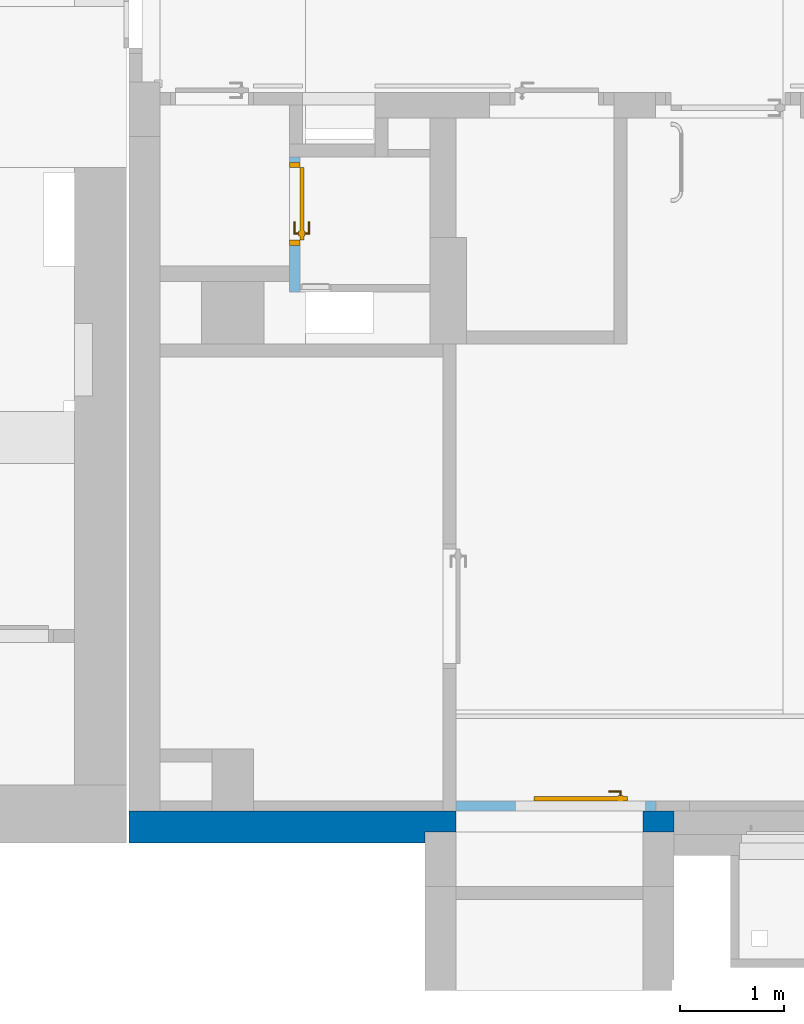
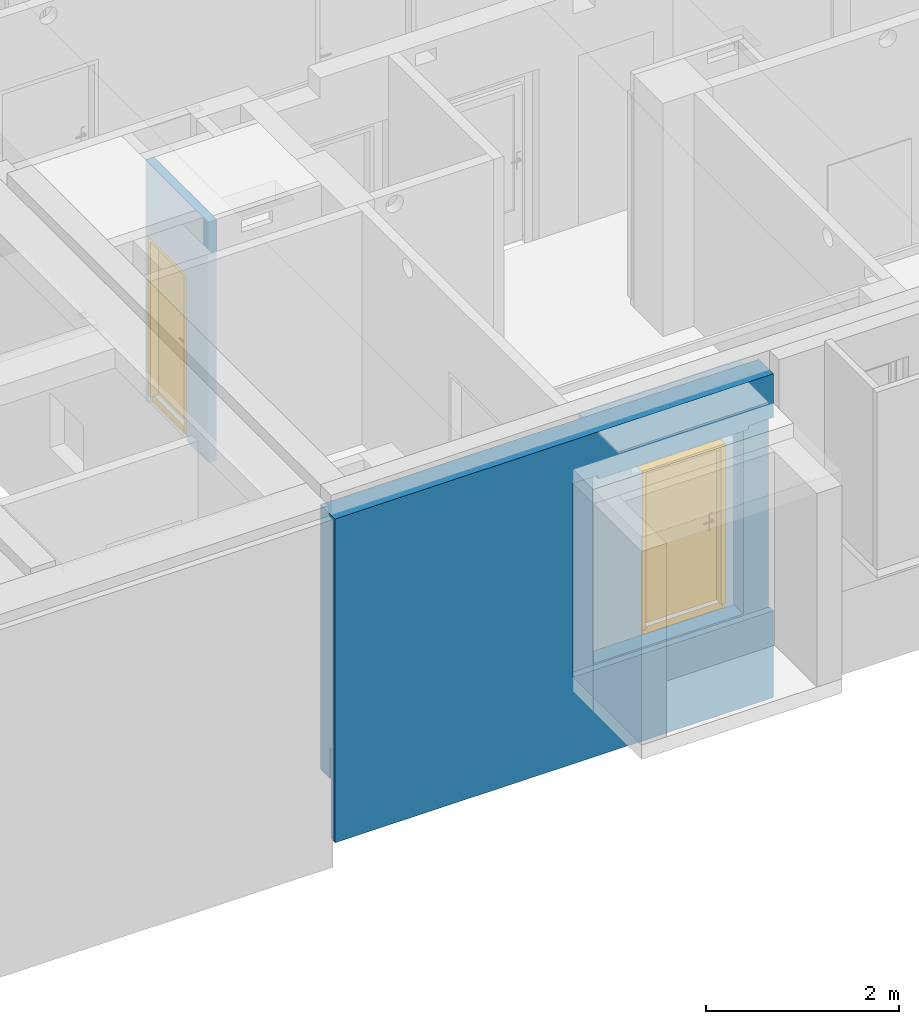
# One storey, part 48 of 84: 2 doors, 1 wall, 3 openings, plus 2 elements that do not belong to this part.
"""IFC4 building model written with IfcOpenShell, lengths in metres."""

import ifcopenshell
import ifcopenshell.guid

model = None  # the IFC model being written
_history = None  # IfcOwnerHistory: only IFC2X3 demands one
_inside = {}  # id of a spatial element -> (the spatial element, [elements in it])
_under = {}  # id of a project, library or spatial element -> (it, [spatial elements below it])
_declared = {}  # id of a project -> (the project, [libraries it declares])
_typed = {}  # id of a type object -> (the type object, [elements of that type])
_made_of = {}  # id of a material, layer set ... -> (it, [elements and type objects made of it])


def new_model(schema):
    """Start an empty IFC model of exactly this schema.

    Asked for "IFC4X3", IfcOpenShell would pick the latest addendum, in which some entities
    have other attributes; the version numbers below select the first issue.
    IFC2X3 requires an IfcOwnerHistory on every rooted entity: one is made here for all.
    """
    global model, _history
    if schema == "IFC4X3":
        model = ifcopenshell.file(schema_version=(4, 3, 0, 0))
    else:
        model = ifcopenshell.file(schema=schema)
    _inside.clear()
    _under.clear()
    _declared.clear()
    _typed.clear()
    _made_of.clear()
    _history = None
    if model.schema == "IFC2X3":
        org = make("IfcOrganization", Name="unknown")
        user = make(
            "IfcPersonAndOrganization",
            ThePerson=make("IfcPerson", FamilyName="unknown"),
            TheOrganization=org,
        )
        app = make(
            "IfcApplication",
            ApplicationDeveloper=org,
            Version="unknown",
            ApplicationFullName="unknown",
            ApplicationIdentifier="unknown",
        )
        _history = make(
            "IfcOwnerHistory",
            OwningUser=user,
            OwningApplication=app,
            ChangeAction="ADDED",
            CreationDate=0,
        )
    return model


def make(cls, **values):
    """One entity of the class cls with the attributes given. An attribute that is None is left unset."""
    return model.create_entity(
        cls, **{name: value for name, value in values.items() if value is not None}
    )


def entity(cls, *values):
    """Any entity or typed value of the class cls, its attributes in the order of the schema. None: left unset."""
    e = model.create_entity(cls)
    for i, value in enumerate(values):
        if value is not None:
            e[i] = value
    return e


def rooted(cls, **values):
    """An entity with a GlobalId (a new one), such as an element, a storey or a relation."""
    return make(cls, GlobalId=ifcopenshell.guid.new(), OwnerHistory=_history, **values)


def si_unit(unit_type, name, prefix=None):
    """IfcSIUnit, for example si_unit("LENGTHUNIT", "METRE", prefix="MILLI")."""
    return make("IfcSIUnit", UnitType=unit_type, Prefix=prefix, Name=name)


def converted_unit(unit_type, name, factor, base, dimensions=None, offset=None):
    """IfcConversionBasedUnit, such as the inch: factor (a typed value) times the base unit."""
    return make(
        "IfcConversionBasedUnit"
        if offset is None
        else "IfcConversionBasedUnitWithOffset",
        ConversionOffset=offset,
        Dimensions=None
        if dimensions is None
        else entity("IfcDimensionalExponents", *dimensions),
        UnitType=unit_type,
        Name=name,
        ConversionFactor=make(
            "IfcMeasureWithUnit", ValueComponent=factor, UnitComponent=base
        ),
    )


def derived_unit(unit_type, elements):
    """IfcDerivedUnit: a product of units, each with its exponent."""
    return make(
        "IfcDerivedUnit",
        Elements=[
            make("IfcDerivedUnitElement", Unit=unit, Exponent=power)
            for unit, power in elements
        ],
        UnitType=unit_type,
    )


def assignment(units):
    """IfcUnitAssignment: the units of a project."""
    return None if units is None else make("IfcUnitAssignment", Units=units)


def point(xyz):
    """IfcCartesianPoint."""
    return None if xyz is None else make("IfcCartesianPoint", Coordinates=xyz)


def direction(xyz):
    """IfcDirection."""
    return None if xyz is None else make("IfcDirection", DirectionRatios=xyz)


def frame(location, z_axis=None, x_axis=None):
    """IfcAxis2Placement3D, a coordinate frame: its origin and axes. An axis left out is left unset."""
    return make(
        "IfcAxis2Placement3D",
        Location=point(location),
        Axis=direction(z_axis),
        RefDirection=direction(x_axis),
    )


def frame_2d(location, x_axis=None):
    """IfcAxis2Placement2D, a coordinate frame in the plane: its origin and x axis."""
    return make(
        "IfcAxis2Placement2D", Location=point(location), RefDirection=direction(x_axis)
    )


def origin():
    """The frame at (0, 0, 0) with its axes left unset."""
    return frame((0.0, 0.0, 0.0))


def origin_with_axes():
    """The frame at (0, 0, 0) with the z axis (0, 0, 1) and the x axis (1, 0, 0) written out."""
    return frame((0.0, 0.0, 0.0), z_axis=(0.0, 0.0, 1.0), x_axis=(1.0, 0.0, 0.0))


def place(relative_to, where):
    """IfcLocalPlacement: puts the frame where relative to a parent placement (None: the world)."""
    return make(
        "IfcLocalPlacement", PlacementRelTo=relative_to, RelativePlacement=where
    )


def context(
    kind, dimensions, precision=None, world=None, true_north=None, identifier=None
):
    """IfcGeometricRepresentationContext, for example the 3D "Model" context."""
    return make(
        "IfcGeometricRepresentationContext",
        ContextIdentifier=identifier,
        ContextType=kind,
        CoordinateSpaceDimension=dimensions,
        Precision=precision,
        WorldCoordinateSystem=world,
        TrueNorth=true_north,
    )


def subcontext(parent, identifier, kind, view, scale=None):
    """IfcGeometricRepresentationSubContext, for example "Body" below "Model"."""
    return make(
        "IfcGeometricRepresentationSubContext",
        ContextIdentifier=identifier,
        ContextType=kind,
        ParentContext=parent,
        TargetScale=scale,
        TargetView=view,
    )


def project(units=None, contexts=None):
    """IfcProject with its units and contexts."""
    return rooted(
        "IfcProject",
        Name="project",
        RepresentationContexts=contexts,
        UnitsInContext=assignment(units),
    )


def spatial(cls, under=None, at=None, **own):
    """A site, building, storey or space (cls), placed at a placement, below another one or the project."""
    s = rooted(cls, ObjectPlacement=at, **own)
    if under is not None:
        _under.setdefault(under.id(), (under, []))[1].append(s)
    return s


def polyline(points):
    """IfcPolyline through the points."""
    return make("IfcPolyline", Points=[point(p) for p in points])


def profile(cls, at=None, kind="AREA", **sizes):
    """A parametric profile (cls). Its sizes go by their IFC names, for example OverallWidth=200.0."""
    return make(cls, ProfileType=kind, Position=at, **sizes)


def rectangle(**sizes):
    """IfcRectangleProfileDef."""
    return profile("IfcRectangleProfileDef", **sizes)


def outline(outer, holes=None, kind="AREA"):
    """IfcArbitraryClosedProfileDef: a profile drawn as a closed curve; with holes, ...WithVoids."""
    if holes is None:
        return make("IfcArbitraryClosedProfileDef", ProfileType=kind, OuterCurve=outer)
    return make(
        "IfcArbitraryProfileDefWithVoids",
        ProfileType=kind,
        OuterCurve=outer,
        InnerCurves=holes,
    )


def extrude(swept, where, along, depth):
    """IfcExtrudedAreaSolid: the profile swept, set in the frame where, extruded along a direction by depth."""
    return make(
        "IfcExtrudedAreaSolid",
        SweptArea=swept,
        Position=where,
        ExtrudedDirection=direction(along),
        Depth=depth,
    )


def faces_of(points, faces, orient=None, outer=None):
    """IfcFace entities. A face is a list of loops; a loop is a list of indices into points, from 0.

    orient and outer hold one flag for each loop. By default every Orientation is true, the
    first loop of a face is its IfcFaceOuterBound and the others are IfcFaceBound.
    """
    made = []
    for i, loops in enumerate(faces):
        bounds = []
        for j, loop in enumerate(loops):
            is_outer = j == 0 if outer is None else outer[i][j]
            bounds.append(
                make(
                    "IfcFaceOuterBound" if is_outer else "IfcFaceBound",
                    Bound=make("IfcPolyLoop", Polygon=[points[k] for k in loop]),
                    Orientation=True if orient is None else orient[i][j],
                )
            )
        made.append(make("IfcFace", Bounds=bounds))
    return made


def closed_shell(faces, orient=None, outer=None):
    """The faces of one IfcClosedShell. faceted_brep and surface_model build it on their shared points."""
    return ("IfcClosedShell", faces, orient, outer)


def open_shell(faces, orient=None, outer=None):
    """The faces of one IfcOpenShell. surface_model builds it on its shared points."""
    return ("IfcOpenShell", faces, orient, outer)


def faceted_brep(points, faces, orient=None, outer=None, voids=None):
    """IfcFacetedBrep: a solid bounded by flat faces; with voids (closed shells), ...WithVoids."""
    shared = [point(p) for p in points]
    hull = make("IfcClosedShell", CfsFaces=faces_of(shared, faces, orient, outer))
    if voids is None:
        return make("IfcFacetedBrep", Outer=hull)
    return make(
        "IfcFacetedBrepWithVoids",
        Outer=hull,
        Voids=[
            make(cls, CfsFaces=faces_of(shared, fs, o, b)) for cls, fs, o, b in voids
        ],
    )


def surface_model(cls, points, shells):
    """IfcFaceBasedSurfaceModel or IfcShellBasedSurfaceModel (cls): surfaces that need not close."""
    shared = [point(p) for p in points]
    made = [make(c, CfsFaces=faces_of(shared, fs, o, b)) for c, fs, o, b in shells]
    if cls == "IfcFaceBasedSurfaceModel":
        return make(cls, FbsmFaces=made)
    return make(cls, SbsmBoundary=made)


def shape(context_of_items, identifier, shape_type, items):
    """IfcShapeRepresentation: the items that make up one representation, for example the "Body"."""
    return make(
        "IfcShapeRepresentation",
        ContextOfItems=context_of_items,
        RepresentationIdentifier=identifier,
        RepresentationType=shape_type,
        Items=items,
    )


def source(mapping_origin, context_of_items, identifier, shape_type, items):
    """IfcRepresentationMap: a shape defined once, which mapped items show again and again."""
    return make(
        "IfcRepresentationMap",
        MappingOrigin=mapping_origin,
        MappedRepresentation=shape(context_of_items, identifier, shape_type, items),
    )


def transform(
    local_origin,
    x_axis=None,
    y_axis=None,
    z_axis=None,
    scale=None,
    scale2=None,
    scale3=None,
    uniform=True,
):
    """IfcCartesianTransformationOperator3D, or its non-uniform kind. x_axis, y_axis, z_axis: its Axis1, 2, 3."""
    if uniform:
        return make(
            "IfcCartesianTransformationOperator3D",
            Axis1=direction(x_axis),
            Axis2=direction(y_axis),
            LocalOrigin=point(local_origin),
            Scale=scale,
            Axis3=direction(z_axis),
        )
    return make(
        "IfcCartesianTransformationOperator3DnonUniform",
        Axis1=direction(x_axis),
        Axis2=direction(y_axis),
        LocalOrigin=point(local_origin),
        Scale=scale,
        Axis3=direction(z_axis),
        Scale2=scale2,
        Scale3=scale3,
    )


def mapped(mapping_source, mapping_target):
    """IfcMappedItem: shows the shape of a source again, moved by a transform."""
    return make(
        "IfcMappedItem", MappingSource=mapping_source, MappingTarget=mapping_target
    )


def material(Name=None, Category=None):
    """IfcMaterial."""
    return make("IfcMaterial", Name=Name, Category=Category)


def layer(
    of_material, thickness, ventilated=None, Name=None, Category=None, Priority=None
):
    """IfcMaterialLayer: one layer of a wall or slab, of a material (None: an air gap)."""
    return make(
        "IfcMaterialLayer",
        Material=of_material,
        LayerThickness=thickness,
        IsVentilated=ventilated,
        Name=Name,
        Category=Category,
        Priority=Priority,
    )


def layer_set(layers, Name=None):
    """IfcMaterialLayerSet."""
    return make("IfcMaterialLayerSet", MaterialLayers=layers, LayerSetName=Name)


def layer_usage(for_layer_set, set_direction, sense, offset, extent=None):
    """IfcMaterialLayerSetUsage: how a layer set lies in its element."""
    return make(
        "IfcMaterialLayerSetUsage",
        ForLayerSet=for_layer_set,
        LayerSetDirection=set_direction,
        DirectionSense=sense,
        OffsetFromReferenceLine=offset,
        ReferenceExtent=extent,
    )


def made_of(thing, what):
    """Note that an element or type object is made of a material, layer set ...; save() writes the relation."""
    if what is not None:
        _made_of.setdefault(what.id(), (what, []))[1].append(thing)
    return thing


def type_object(cls, material=None, **own):
    """A type object (cls), such as IfcWallType, which elements share."""
    return made_of(rooted(cls, **own), material)


def element(
    cls,
    number,
    at=None,
    inside=None,
    cuts=None,
    type_object=None,
    material=None,
    context=None,
    identifier="Body",
    shape_type=None,
    held_by="IfcProductDefinitionShape",
    body=None,
    shapes=None,
    **own,
):
    """One element of the class cls, such as IfcWall. Its Tag is "e" and its number.

    at: its placement. inside: the storey or other place that contains it. cuts: it is an
    opening in that element (IfcRelVoidsElement). A single representation is given by context,
    identifier, shape_type and body (its items); several are given by shapes. held_by: the class
    of the entity that holds the representations. save() writes the other relations.
    """
    e = rooted(cls, Tag="e%d" % number, ObjectPlacement=at, **own)
    if body is not None:
        shapes = [shape(context, identifier, shape_type, body)]
    if shapes is not None:
        e.Representation = make(held_by, Representations=shapes)
    if inside is not None:
        _inside.setdefault(inside.id(), (inside, []))[1].append(e)
    if cuts is not None:
        rooted(
            "IfcRelVoidsElement", RelatingBuildingElement=cuts, RelatedOpeningElement=e
        )
    if type_object is not None:
        _typed.setdefault(type_object.id(), (type_object, []))[1].append(e)
    return made_of(e, material)


def fill(opening, filler):
    """IfcRelFillsElement: the door or window that sits in an opening."""
    return rooted(
        "IfcRelFillsElement",
        RelatingOpeningElement=opening,
        RelatedBuildingElement=filler,
    )


def aggregate(whole, parts):
    """IfcRelAggregates: a whole, such as a stair, and the parts it consists of."""
    return rooted("IfcRelAggregates", RelatingObject=whole, RelatedObjects=parts)


def save(model, path):
    """Write the relations noted so far, then the file.

    IfcRelAggregates (storeys below a building ...), IfcRelContainedInSpatialStructure (elements
    in a storey), IfcRelDefinesByType, IfcRelAssociatesMaterial and IfcRelDeclares: one each for
    every whole, place, type object, material and project.
    """
    for whole, parts in _under.values():
        aggregate(whole, parts)
    for where, things in _inside.values():
        rooted(
            "IfcRelContainedInSpatialStructure",
            RelatedElements=things,
            RelatingStructure=where,
        )
    for kind, things in _typed.values():
        rooted("IfcRelDefinesByType", RelatedObjects=things, RelatingType=kind)
    for what, things in _made_of.values():
        rooted("IfcRelAssociatesMaterial", RelatedObjects=things, RelatingMaterial=what)
    for by, libraries in _declared.values():
        rooted("IfcRelDeclares", RelatingContext=by, RelatedDefinitions=libraries)
    model.write(path)


model = new_model("IFC4")

# Units and contexts
model_context = context("Model", 3, precision=1e-05, world=origin())
body_context = subcontext(model_context, "Body", "Model", "MODEL_VIEW")
ifc_project = project(units=[si_unit("LENGTHUNIT", "METRE"), si_unit("AREAUNIT", "SQUARE_METRE"), si_unit("VOLUMEUNIT", "CUBIC_METRE"), si_unit("MASSUNIT", "GRAM", prefix="KILO"), converted_unit("PLANEANGLEUNIT", "DEGREE", entity("IfcPlaneAngleMeasure", 0.0174532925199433), si_unit("PLANEANGLEUNIT", "RADIAN"), dimensions=[0, 0, 0, 0, 0, 0, 0]), derived_unit("THERMALTRANSMITTANCEUNIT", [(si_unit("POWERUNIT", "WATT"), 1), (si_unit("THERMODYNAMICTEMPERATUREUNIT", "KELVIN"), -1), (si_unit("LENGTHUNIT", "METRE"), -2)]), derived_unit("VOLUMETRICFLOWRATEUNIT", [(si_unit("LENGTHUNIT", "METRE"), 3), (converted_unit("TIMEUNIT", "hour", entity("IfcTimeMeasure", 3600.0), si_unit("TIMEUNIT", "SECOND"), dimensions=[0, 0, 1, 0, 0, 0, 0]), -1), (si_unit("LENGTHUNIT", "METRE"), -1)])], contexts=[model_context])

# Site, building, storey
site_placement = place(None, origin())
site = spatial("IfcSite", under=ifc_project, at=site_placement, Name="3. ASŘ", CompositionType="ELEMENT")
building_placement = place(site_placement, origin())
building = spatial("IfcBuilding", under=site, at=building_placement, Name="Pavilon C", CompositionType="ELEMENT")
storey_placement = place(building_placement, frame((0.0, 0.0, -3.3)))
storey = spatial("IfcBuildingStorey", under=building, at=storey_placement, Name="Půdorys 1.PP", CompositionType="ELEMENT", Elevation=-3.3)

# Wall, opening
ifc_material_1 = material(Name="ZELEZOBETONOVÁ KCE")
wall_1_placement = place(storey_placement, frame((-0.999999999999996, 0.295000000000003, -1.15)))
wall_1 = element("IfcWall", 1, at=wall_1_placement, inside=storey, material=ifc_material_1, Name="ZELEZOBETONOVÁ KCE", context=body_context, shape_type="Brep", body=[
    faceted_brep([(5.25, 0.305, 4.1), (5.25, 0.0, 4.1), (0.0, 1.47792889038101e-15, 4.1), (0.0, 0.305000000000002, 4.1), (0.0, 0.305000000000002, 0.750000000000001), (5.25, 0.305, 0.750000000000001), (5.25, 0.105, 0.750000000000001), (5.25, 0.105, 3.55), (5.25, 0.0, 3.55), (0.0, 0.105000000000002, 0.750000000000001), (0.0, 1.47792889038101e-15, 0.0), (0.0, 0.0800000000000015, 0.0), (0.0, 0.0800000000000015, 1.15), (0.0, 0.105000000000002, 1.15), (2.85, 0.105000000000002, 1.15), (2.85, 0.105000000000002, 3.55), (3.15, 0.105000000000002, 3.55), (3.15, 0.105000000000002, 1.15), (4.95, 0.105000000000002, 1.15), (4.95, 0.105000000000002, 3.55), (2.85, 6.82121026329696e-16, 1.1), (2.85, 0.0800000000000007, 1.1), (3.15, 0.0800000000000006, 1.1), (3.15, 6.25277607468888e-16, 1.1), (5.25, 0.0, 1.1), (4.95, 1.13686837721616e-16, 1.1), (4.95, 0.0800000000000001, 1.1), (5.25, 0.08, 1.1), (4.95, 1.13686837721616e-16, 3.55), (5.25, 0.0, 0.0), (3.15, 6.25277607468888e-16, 3.55), (2.85, 6.82121026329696e-16, 3.55), (2.85, 0.0800000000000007, 1.15), (5.25, 0.08, 0.0), (4.95, 0.0800000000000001, 1.15), (3.15, 0.0800000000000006, 1.15)], [[[0, 1, 2, 3]], [[4, 5, 0, 3]], [[5, 6, 7, 8, 1, 0]], [[6, 5, 4, 9]], [[9, 4, 3, 2, 10, 11, 12, 13]], [[7, 6, 9, 13, 14, 15, 16, 17, 18, 19]], [[20, 21, 22, 23]], [[24, 25, 26, 27]], [[28, 25, 24, 29, 10, 2, 1, 8], [20, 23, 30, 31]], [[22, 21, 32, 12, 11, 33, 27, 26, 34, 35]], [[27, 33, 29, 24]], [[29, 33, 11, 10]], [[17, 16, 30, 23, 22, 35]], [[16, 15, 31, 30]], [[32, 21, 20, 31, 15, 14]], [[19, 28, 8, 7]], [[34, 26, 25, 28, 19, 18]], [[14, 13, 12, 32]], [[35, 34, 18, 17]]], orient=[[False], [False], [False], [False], [False], [False], [False], [False], [False, False], [False], [False], [False], [False], [False], [False], [False], [False], [False], [False]]),
])
opening_1_placement = place(wall_1_placement, frame((3.15, 0.105000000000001, 1.1), z_axis=(0.0, 1.0, 0.0), x_axis=(0.0, 0.0, 1.0)))
element("IfcOpeningElement", 2, at=opening_1_placement, cuts=wall_1, Name="Dveřní otvor", ObjectType="Opening", context=body_context, shape_type="SweptSolid", body=[
    extrude(outline(polyline([(0.0, 1.8), (2.4, 1.8), (2.4, 0.0), (0.0, 0.0), (0.0, 1.8)])), origin_with_axes(), (0.0, 0.0, 1.0), 0.2),
    extrude(outline(polyline([(0.0, 1.8), (2.4, 1.8), (2.4, 0.0), (0.0, 0.0), (0.0, 1.8)])), frame((0.0, 7.105427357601e-18, -0.025), z_axis=(0.0, 0.0, 1.0), x_axis=(1.0, 0.0, 0.0)), (0.0, 0.0, 1.0), 0.025),
    extrude(outline(polyline([(0.0, 1.8), (2.4, 1.8), (2.4, 0.0), (0.0, 0.0), (0.0, 1.8)])), frame((0.0, 2.98427949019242e-17, -0.105), z_axis=(0.0, 0.0, 1.0), x_axis=(1.0, 0.0, 0.0)), (0.0, 0.0, 1.0), 0.08),
])

# Wall, opening, door
ifc_material_2 = material(Name="YTONG 100")
wall_2_placement = place(storey_placement, frame((2.15, 0.600000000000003, -0.1)))
wall_2 = element("IfcWall", 3, at=wall_2_placement, inside=storey, material=ifc_material_2, Name="YTONG 100", context=body_context, shape_type="Brep", body=[
    faceted_brep([(0.575, 3.41060513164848e-16, 2.369), (1.825, 0.0, 2.369), (1.825, 0.1, 2.369), (0.575, 0.1, 2.369), (0.575, 0.1, 2.12), (1.825, 0.1, 2.12), (1.825, 0.0, 2.12), (0.575, 3.41060513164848e-16, 2.12), (0.0, 0.1, 0.0), (1.925, 0.1, 0.0), (1.925, 0.1, 3.05), (0.0, 0.1, 3.05), (1.925, 0.0, 0.0), (1.925, 0.0, 3.05), (0.0, 4.54747350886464e-16, 0.0), (0.0, 4.54747350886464e-16, 3.05)], [[[0, 1, 2, 3]], [[4, 5, 6, 7]], [[3, 4, 7, 0]], [[1, 6, 5, 2]], [[8, 9, 10, 11], [4, 3, 2, 5]], [[9, 12, 13, 10]], [[12, 14, 15, 13], [6, 1, 0, 7]], [[14, 8, 11, 15]], [[15, 11, 10, 13]], [[8, 14, 12, 9]]], orient=[[False], [False], [False], [False], [False, False], [False], [False, False], [False], [False], [False]]),
])
opening_2_placement = place(wall_2_placement, frame((1.7, 0.1, 0.0), z_axis=(0.0, -1.0, 0.0), x_axis=(0.0, 0.0, 1.0)))
opening_2 = element("IfcOpeningElement", 4, at=opening_2_placement, cuts=wall_2, Name="Dveřní otvor", ObjectType="Opening", context=body_context, shape_type="SweptSolid", body=[
    extrude(outline(polyline([(0.0, 1.0), (2.12, 1.0), (2.12, 0.0), (0.0, 0.0), (0.0, 1.0)])), origin_with_axes(), (0.0, 0.0, 1.0), 0.1),
])
door_type_1 = type_object("IfcDoorType", Name="I.D030", OperationType="NOTDEFINED", ParameterTakesPrecedence=False, PredefinedType="DOOR")
shared_shape_1 = source(origin_with_axes(), body_context, "Body", "SurfaceModel", [
    surface_model("IfcShellBasedSurfaceModel", [(0.0, 0.15, 0.0), (1.0, 0.15, 0.0), (1.0, 0.15, 0.1), (0.0, 0.15, 0.1)], [open_shell([[[0, 1, 2, 3]]], orient=[[False]])]),
    surface_model("IfcShellBasedSurfaceModel", [(0.0, 0.2, 2.12), (0.0, 0.2, 0.101), (0.05, 0.2, 0.101), (0.05, 0.2, 2.12), (0.0, 0.0999999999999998, 0.101), (0.0, 0.1, 2.12), (0.05, 0.1, 2.12), (0.05, 0.0999999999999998, 0.101)], [closed_shell([[[0, 1, 2, 3]], [[4, 5, 6, 7]], [[1, 0, 5, 4]], [[2, 1, 4, 7]], [[3, 2, 7, 6]], [[0, 3, 6, 5]]], orient=[[False], [False], [False], [False], [False], [False]])]),
    surface_model("IfcShellBasedSurfaceModel", [(0.95, 0.2, 2.12), (0.95, 0.2, 0.101), (1.0, 0.2, 0.101), (1.0, 0.2, 2.12), (0.95, 0.0999999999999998, 0.101), (0.95, 0.1, 2.12), (1.0, 0.1, 2.12), (1.0, 0.0999999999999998, 0.101)], [closed_shell([[[0, 1, 2, 3]], [[4, 5, 6, 7]], [[1, 0, 5, 4]], [[2, 1, 4, 7]], [[3, 2, 7, 6]], [[0, 3, 6, 5]]], orient=[[False], [False], [False], [False], [False], [False]])]),
    surface_model("IfcShellBasedSurfaceModel", [(0.05, 0.2, 2.12), (0.05, 0.2, 2.07), (0.95, 0.2, 2.07), (0.95, 0.2, 2.12), (0.05, 0.1, 2.07), (0.05, 0.1, 2.12), (0.95, 0.1, 2.12), (0.95, 0.1, 2.07)], [closed_shell([[[0, 1, 2, 3]], [[4, 5, 6, 7]], [[1, 0, 5, 4]], [[2, 1, 4, 7]], [[3, 2, 7, 6]], [[0, 3, 6, 5]]], orient=[[False], [False], [False], [False], [False], [False]])]),
    surface_model("IfcShellBasedSurfaceModel", [(0.05, 0.1, 2.07), (0.05, 0.0999999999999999, 0.101), (0.95, 0.0999999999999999, 0.101), (0.95, 0.1, 2.07), (0.05, 0.0599999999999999, 0.101), (0.05, 0.0600000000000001, 2.07), (0.95, 0.0600000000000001, 2.07), (0.95, 0.0599999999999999, 0.101)], [closed_shell([[[0, 1, 2, 3]], [[4, 5, 6, 7]], [[1, 0, 5, 4]], [[2, 1, 4, 7]], [[3, 2, 7, 6]], [[0, 3, 6, 5]]], orient=[[False], [False], [False], [False], [False], [False]])]),
    surface_model("IfcShellBasedSurfaceModel", [(0.86, 0.06, 1.226), (0.86, 0.06, 1.011), (0.91, 0.06, 1.011), (0.91, 0.06, 1.226), (0.86, 0.05, 1.011), (0.86, 0.05, 1.226), (0.91, 0.05, 1.226), (0.91, 0.05, 1.011)], [closed_shell([[[0, 1, 2, 3]], [[4, 5, 6, 7]], [[1, 0, 5, 4]], [[2, 1, 4, 7]], [[3, 2, 7, 6]], [[0, 3, 6, 5]]], orient=[[False], [False], [False], [False], [False], [False]])]),
    surface_model("IfcShellBasedSurfaceModel", [(0.885, 0.05, 1.161), (0.88, 0.05, 1.15966025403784), (0.876339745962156, 0.05, 1.156), (0.875, 0.05, 1.151), (0.876339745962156, 0.05, 1.146), (0.88, 0.05, 1.14233974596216), (0.885, 0.05, 1.141), (0.89, 0.05, 1.14233974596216), (0.893660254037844, 0.05, 1.146), (0.895, 0.05, 1.151), (0.893660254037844, 0.05, 1.156), (0.89, 0.05, 1.15966025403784), (0.89, 0.005, 1.15966025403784), (0.885, 0.01, 1.161), (0.893660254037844, 0.00133974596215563, 1.156), (0.895, 0.0, 1.151), (0.893660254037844, 0.00133974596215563, 1.146), (0.89, 0.005, 1.14233974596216), (0.885, 0.01, 1.141), (0.88, 0.015, 1.14233974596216), (0.876339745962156, 0.0186602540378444, 1.146), (0.875, 0.02, 1.151), (0.876339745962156, 0.0186602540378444, 1.156), (0.88, 0.015, 1.15966025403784), (0.77, 0.005, 1.15966025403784), (0.77, 0.01, 1.161), (0.77, 0.0013397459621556, 1.156), (0.77, 0.0, 1.151), (0.77, 0.0013397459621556, 1.146), (0.77, 0.005, 1.14233974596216), (0.77, 0.01, 1.141), (0.77, 0.015, 1.14233974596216), (0.77, 0.0186602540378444, 1.146), (0.77, 0.02, 1.151), (0.77, 0.0186602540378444, 1.156), (0.77, 0.015, 1.15966025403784)], [open_shell([[[0, 1, 2, 3, 4, 5, 6, 7, 8, 9, 10, 11]], [[0, 11, 12, 13]], [[11, 10, 14, 12]], [[10, 9, 15, 14]], [[9, 8, 16, 15]], [[8, 7, 17, 16]], [[7, 6, 18, 17]], [[6, 5, 19, 18]], [[5, 4, 20, 19]], [[4, 3, 21, 20]], [[3, 2, 22, 21]], [[2, 1, 23, 22]], [[1, 0, 13, 23]], [[13, 12, 24, 25]], [[12, 14, 26, 24]], [[14, 15, 27, 26]], [[15, 16, 28, 27]], [[16, 17, 29, 28]], [[17, 18, 30, 29]], [[18, 19, 31, 30]], [[19, 20, 32, 31]], [[20, 21, 33, 32]], [[21, 22, 34, 33]], [[22, 23, 35, 34]], [[23, 13, 25, 35]]], orient=[[False], [False], [False], [False], [False], [False], [False], [False], [False], [False], [False], [False], [False], [False], [False], [False], [False], [False], [False], [False], [False], [False], [False], [False], [False]])]),
    surface_model("IfcShellBasedSurfaceModel", [(0.86, 0.1, 1.226), (0.91, 0.1, 1.226), (0.91, 0.1, 1.011), (0.86, 0.1, 1.011), (0.86, 0.11, 1.011), (0.91, 0.11, 1.011), (0.91, 0.11, 1.226), (0.86, 0.11, 1.226)], [closed_shell([[[0, 1, 2, 3]], [[4, 5, 6, 7]], [[3, 4, 7, 0]], [[2, 5, 4, 3]], [[1, 6, 5, 2]], [[0, 7, 6, 1]]], orient=[[False], [False], [False], [False], [False], [False]])]),
    surface_model("IfcShellBasedSurfaceModel", [(0.885, 0.11, 1.161), (0.89, 0.11, 1.15966025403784), (0.893660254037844, 0.11, 1.156), (0.895, 0.11, 1.151), (0.893660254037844, 0.11, 1.146), (0.89, 0.11, 1.14233974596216), (0.885, 0.11, 1.141), (0.88, 0.11, 1.14233974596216), (0.876339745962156, 0.11, 1.146), (0.875, 0.11, 1.151), (0.876339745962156, 0.11, 1.156), (0.88, 0.11, 1.15966025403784), (0.885, 0.15, 1.161), (0.89, 0.155, 1.15966025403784), (0.893660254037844, 0.158660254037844, 1.156), (0.895, 0.16, 1.151), (0.893660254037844, 0.158660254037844, 1.146), (0.89, 0.155, 1.14233974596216), (0.885, 0.15, 1.141), (0.88, 0.145, 1.14233974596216), (0.876339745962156, 0.141339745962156, 1.146), (0.875, 0.14, 1.151), (0.876339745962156, 0.141339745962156, 1.156), (0.88, 0.145, 1.15966025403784), (0.77, 0.15, 1.161), (0.77, 0.155, 1.15966025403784), (0.77, 0.158660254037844, 1.156), (0.77, 0.16, 1.151), (0.77, 0.158660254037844, 1.146), (0.77, 0.155, 1.14233974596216), (0.77, 0.15, 1.141), (0.77, 0.145, 1.14233974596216), (0.77, 0.141339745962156, 1.146), (0.77, 0.14, 1.151), (0.77, 0.141339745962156, 1.156), (0.77, 0.145, 1.15966025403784)], [open_shell([[[0, 1, 2, 3, 4, 5, 6, 7, 8, 9, 10, 11]], [[0, 12, 13, 1]], [[1, 13, 14, 2]], [[2, 14, 15, 3]], [[3, 15, 16, 4]], [[4, 16, 17, 5]], [[5, 17, 18, 6]], [[6, 18, 19, 7]], [[7, 19, 20, 8]], [[8, 20, 21, 9]], [[9, 21, 22, 10]], [[10, 22, 23, 11]], [[11, 23, 12, 0]], [[12, 24, 25, 13]], [[13, 25, 26, 14]], [[14, 26, 27, 15]], [[15, 27, 28, 16]], [[16, 28, 29, 17]], [[17, 29, 30, 18]], [[18, 30, 31, 19]], [[19, 31, 32, 20]], [[20, 32, 33, 21]], [[21, 33, 34, 22]], [[22, 34, 35, 23]], [[23, 35, 24, 12]]], orient=[[False], [False], [False], [False], [False], [False], [False], [False], [False], [False], [False], [False], [False], [False], [False], [False], [False], [False], [False], [False], [False], [False], [False], [False], [False]])]),
])
door_1_placement = place(opening_2_placement, frame((0.0, 1.0, -0.1), z_axis=(1.0, 0.0, 0.0), x_axis=(0.0, -1.0, 1.22464679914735e-16)))
door_1 = element("IfcDoor", 5, at=door_1_placement, inside=storey, type_object=door_type_1, Name="I.D030", OverallHeight=2.12, OverallWidth=1.0, context=body_context, shape_type="MappedRepresentation", body=[
    mapped(shared_shape_1, transform((0.0, 0.0, 0.0), x_axis=(1.0, 0.0, 0.0), y_axis=(0.0, -1.0, 0.0), z_axis=(0.0, 0.0, 1.0), scale=1.0)),
])
fill(opening_2, door_1)

ifc_material_3 = material(Name="SDK - 1 KCE + DVOJITÉ OPLÁŠTĚNÍ")
ifc_layer = layer(ifc_material_3, 0.1)
ifc_layer_set = layer_set([ifc_layer])
ifc_layer_usage = layer_usage(ifc_layer_set, "AXIS2", "POSITIVE", 0.0)
wall_3_placement = place(storey_placement, frame((0.545000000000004, 6.9, -0.1), z_axis=(0.0, 0.0, 1.0), x_axis=(0.0, -1.0, 0.0)))
wall_3 = element("IfcWall", 6, at=wall_3_placement, inside=storey, material=ifc_layer_usage, Name="SDK - 1 KCE + DVOJITÉ OPLÁŠTĚNÍ", context=body_context, shape_type="SweptSolid", body=[
    extrude(rectangle(XDim=1.3, YDim=0.1, at=frame_2d((0.65, 0.05), x_axis=(1.0, 0.0))), origin_with_axes(), (0.0, 0.0, 1.0), 3.05),
])
opening_3_placement = place(wall_3_placement, frame((0.05, 0.0, 0.0), z_axis=(0.0, 1.0, 0.0), x_axis=(0.0, 0.0, 1.0)))
opening_3 = element("IfcOpeningElement", 7, at=opening_3_placement, cuts=wall_3, Name="Dveřní otvor", ObjectType="Opening", context=body_context, shape_type="SweptSolid", body=[
    extrude(outline(polyline([(0.0, 0.8), (2.12, 0.8), (2.12, 0.0), (0.0, 0.0), (0.0, 0.8)])), origin_with_axes(), (0.0, 0.0, 1.0), 0.1),
])
door_type_2 = type_object("IfcDoorType", Name="I.D033", OperationType="NOTDEFINED", ParameterTakesPrecedence=False, PredefinedType="DOOR")
shared_shape_2 = source(origin_with_axes(), body_context, "Body", "SurfaceModel", [
    surface_model("IfcShellBasedSurfaceModel", [(0.0, 0.05, 0.0), (0.8, 0.05, 0.0), (0.8, 0.05, 0.1), (0.0, 0.05, 0.1)], [open_shell([[[0, 1, 2, 3]]], orient=[[False]])]),
    surface_model("IfcShellBasedSurfaceModel", [(0.0, 0.1, 2.12), (0.0, 0.1, 0.101), (0.05, 0.1, 0.101), (0.05, 0.1, 2.12), (0.0, 0.0, 0.101), (0.0, 2.41584530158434e-16, 2.12), (0.05, 2.41584530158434e-16, 2.12), (0.05, 0.0, 0.101)], [closed_shell([[[0, 1, 2, 3]], [[4, 5, 6, 7]], [[1, 0, 5, 4]], [[2, 1, 4, 7]], [[3, 2, 7, 6]], [[0, 3, 6, 5]]], orient=[[False], [False], [False], [False], [False], [False]])]),
    surface_model("IfcShellBasedSurfaceModel", [(0.75, 0.1, 2.12), (0.75, 0.1, 0.101), (0.8, 0.1, 0.101), (0.8, 0.1, 2.12), (0.75, 0.0, 0.101), (0.75, 2.41584530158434e-16, 2.12), (0.8, 2.41584530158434e-16, 2.12), (0.8, 0.0, 0.101)], [closed_shell([[[0, 1, 2, 3]], [[4, 5, 6, 7]], [[1, 0, 5, 4]], [[2, 1, 4, 7]], [[3, 2, 7, 6]], [[0, 3, 6, 5]]], orient=[[False], [False], [False], [False], [False], [False]])]),
    surface_model("IfcShellBasedSurfaceModel", [(0.05, 0.1, 2.12), (0.05, 0.1, 2.07), (0.75, 0.1, 2.07), (0.75, 0.1, 2.12), (0.05, 2.41584530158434e-16, 2.07), (0.05, 2.41584530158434e-16, 2.12), (0.75, 2.41584530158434e-16, 2.12), (0.75, 2.41584530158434e-16, 2.07)], [closed_shell([[[0, 1, 2, 3]], [[4, 5, 6, 7]], [[1, 0, 5, 4]], [[2, 1, 4, 7]], [[3, 2, 7, 6]], [[0, 3, 6, 5]]], orient=[[False], [False], [False], [False], [False], [False]])]),
    surface_model("IfcShellBasedSurfaceModel", [(0.05, 0.14, 2.07), (0.05, 0.14, 0.101), (0.75, 0.14, 0.101), (0.75, 0.14, 2.07), (0.05, 0.1, 0.101), (0.05, 0.1, 2.07), (0.75, 0.1, 2.07), (0.75, 0.1, 0.101)], [closed_shell([[[0, 1, 2, 3]], [[4, 5, 6, 7]], [[1, 0, 5, 4]], [[2, 1, 4, 7]], [[3, 2, 7, 6]], [[0, 3, 6, 5]]], orient=[[False], [False], [False], [False], [False], [False]])]),
    surface_model("IfcShellBasedSurfaceModel", [(0.66, 0.1, 1.226), (0.66, 0.1, 1.011), (0.71, 0.1, 1.011), (0.71, 0.1, 1.226), (0.66, 0.0900000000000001, 1.011), (0.66, 0.0900000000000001, 1.226), (0.71, 0.0900000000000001, 1.226), (0.71, 0.0900000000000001, 1.011)], [closed_shell([[[0, 1, 2, 3]], [[4, 5, 6, 7]], [[1, 0, 5, 4]], [[2, 1, 4, 7]], [[3, 2, 7, 6]], [[0, 3, 6, 5]]], orient=[[False], [False], [False], [False], [False], [False]])]),
    surface_model("IfcShellBasedSurfaceModel", [(0.685, 0.0900000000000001, 1.161), (0.68, 0.0900000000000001, 1.15966025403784), (0.676339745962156, 0.0900000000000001, 1.156), (0.675, 0.0900000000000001, 1.151), (0.676339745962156, 0.0900000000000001, 1.146), (0.68, 0.0900000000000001, 1.14233974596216), (0.685, 0.0900000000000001, 1.141), (0.69, 0.0900000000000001, 1.14233974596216), (0.693660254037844, 0.0900000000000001, 1.146), (0.695, 0.0900000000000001, 1.151), (0.693660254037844, 0.0900000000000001, 1.156), (0.69, 0.0900000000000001, 1.15966025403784), (0.69, 0.0450000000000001, 1.15966025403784), (0.685, 0.0500000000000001, 1.161), (0.693660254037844, 0.0413397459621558, 1.156), (0.695, 0.0400000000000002, 1.151), (0.693660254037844, 0.0413397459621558, 1.146), (0.69, 0.0450000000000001, 1.14233974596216), (0.685, 0.0500000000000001, 1.141), (0.68, 0.0550000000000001, 1.14233974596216), (0.676339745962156, 0.0586602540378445, 1.146), (0.675, 0.0600000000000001, 1.151), (0.676339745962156, 0.0586602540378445, 1.156), (0.68, 0.0550000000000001, 1.15966025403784), (0.57, 0.0450000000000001, 1.15966025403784), (0.57, 0.0500000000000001, 1.161), (0.57, 0.0413397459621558, 1.156), (0.57, 0.0400000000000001, 1.151), (0.57, 0.0413397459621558, 1.146), (0.57, 0.0450000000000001, 1.14233974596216), (0.57, 0.0500000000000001, 1.141), (0.57, 0.0550000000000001, 1.14233974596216), (0.57, 0.0586602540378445, 1.146), (0.57, 0.0600000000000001, 1.151), (0.57, 0.0586602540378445, 1.156), (0.57, 0.0550000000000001, 1.15966025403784)], [open_shell([[[0, 1, 2, 3, 4, 5, 6, 7, 8, 9, 10, 11]], [[0, 11, 12, 13]], [[11, 10, 14, 12]], [[10, 9, 15, 14]], [[9, 8, 16, 15]], [[8, 7, 17, 16]], [[7, 6, 18, 17]], [[6, 5, 19, 18]], [[5, 4, 20, 19]], [[4, 3, 21, 20]], [[3, 2, 22, 21]], [[2, 1, 23, 22]], [[1, 0, 13, 23]], [[13, 12, 24, 25]], [[12, 14, 26, 24]], [[14, 15, 27, 26]], [[15, 16, 28, 27]], [[16, 17, 29, 28]], [[17, 18, 30, 29]], [[18, 19, 31, 30]], [[19, 20, 32, 31]], [[20, 21, 33, 32]], [[21, 22, 34, 33]], [[22, 23, 35, 34]], [[23, 13, 25, 35]]], orient=[[False], [False], [False], [False], [False], [False], [False], [False], [False], [False], [False], [False], [False], [False], [False], [False], [False], [False], [False], [False], [False], [False], [False], [False], [False]])]),
    surface_model("IfcShellBasedSurfaceModel", [(0.66, 0.14, 1.226), (0.71, 0.14, 1.226), (0.71, 0.14, 1.011), (0.66, 0.14, 1.011), (0.66, 0.15, 1.011), (0.71, 0.15, 1.011), (0.71, 0.15, 1.226), (0.66, 0.15, 1.226)], [closed_shell([[[0, 1, 2, 3]], [[4, 5, 6, 7]], [[3, 4, 7, 0]], [[2, 5, 4, 3]], [[1, 6, 5, 2]], [[0, 7, 6, 1]]], orient=[[False], [False], [False], [False], [False], [False]])]),
    surface_model("IfcShellBasedSurfaceModel", [(0.685, 0.15, 1.161), (0.69, 0.15, 1.15966025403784), (0.693660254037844, 0.15, 1.156), (0.695, 0.15, 1.151), (0.693660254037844, 0.15, 1.146), (0.69, 0.15, 1.14233974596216), (0.685, 0.15, 1.141), (0.68, 0.15, 1.14233974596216), (0.676339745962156, 0.15, 1.146), (0.675, 0.15, 1.151), (0.676339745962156, 0.15, 1.156), (0.68, 0.15, 1.15966025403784), (0.685, 0.19, 1.161), (0.69, 0.195, 1.15966025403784), (0.693660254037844, 0.198660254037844, 1.156), (0.695, 0.2, 1.151), (0.693660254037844, 0.198660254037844, 1.146), (0.69, 0.195, 1.14233974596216), (0.685, 0.19, 1.141), (0.68, 0.185, 1.14233974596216), (0.676339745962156, 0.181339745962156, 1.146), (0.675, 0.18, 1.151), (0.676339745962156, 0.181339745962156, 1.156), (0.68, 0.185, 1.15966025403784), (0.57, 0.19, 1.161), (0.57, 0.195, 1.15966025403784), (0.57, 0.198660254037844, 1.156), (0.57, 0.2, 1.151), (0.57, 0.198660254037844, 1.146), (0.57, 0.195, 1.14233974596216), (0.57, 0.19, 1.141), (0.57, 0.185, 1.14233974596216), (0.57, 0.181339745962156, 1.146), (0.57, 0.18, 1.151), (0.57, 0.181339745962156, 1.156), (0.57, 0.185, 1.15966025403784)], [open_shell([[[0, 1, 2, 3, 4, 5, 6, 7, 8, 9, 10, 11]], [[0, 12, 13, 1]], [[1, 13, 14, 2]], [[2, 14, 15, 3]], [[3, 15, 16, 4]], [[4, 16, 17, 5]], [[5, 17, 18, 6]], [[6, 18, 19, 7]], [[7, 19, 20, 8]], [[8, 20, 21, 9]], [[9, 21, 22, 10]], [[10, 22, 23, 11]], [[11, 23, 12, 0]], [[12, 24, 25, 13]], [[13, 25, 26, 14]], [[14, 26, 27, 15]], [[15, 27, 28, 16]], [[16, 28, 29, 17]], [[17, 29, 30, 18]], [[18, 30, 31, 19]], [[19, 31, 32, 20]], [[20, 32, 33, 21]], [[21, 33, 34, 22]], [[22, 34, 35, 23]], [[23, 35, 24, 12]]], orient=[[False], [False], [False], [False], [False], [False], [False], [False], [False], [False], [False], [False], [False], [False], [False], [False], [False], [False], [False], [False], [False], [False], [False], [False], [False]])]),
])
door_2_placement = place(opening_3_placement, frame((0.0, 1.81898940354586e-15, -2.27373675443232e-16), z_axis=(1.0, 0.0, 0.0), x_axis=(0.0, 1.0, 1.22464679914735e-16)))
door_2 = element("IfcDoor", 8, at=door_2_placement, inside=storey, type_object=door_type_2, Name="I.D033", OverallHeight=2.12, OverallWidth=0.8, context=body_context, shape_type="MappedRepresentation", body=[
    mapped(shared_shape_2, transform((0.0, 0.0, 0.0), x_axis=(1.0, 0.0, 0.0), y_axis=(0.0, 1.0, 0.0), z_axis=(0.0, 0.0, 1.0), scale=1.0)),
])
fill(opening_3, door_2)

save(model, "model.ifc")
